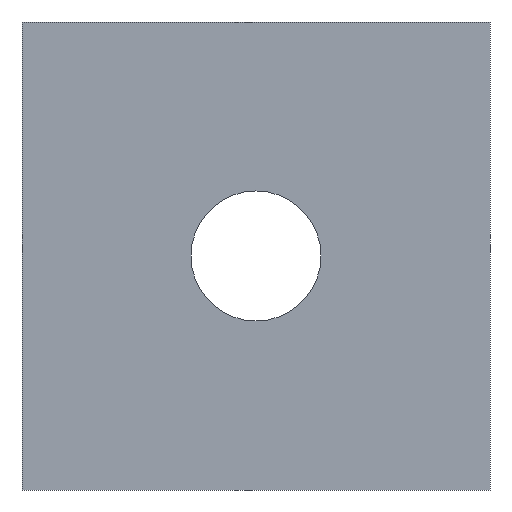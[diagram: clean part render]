
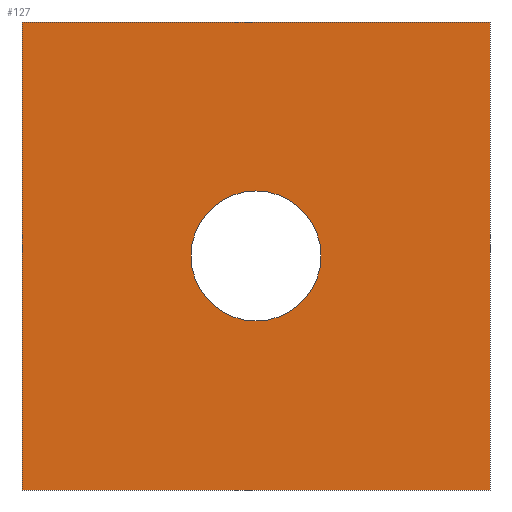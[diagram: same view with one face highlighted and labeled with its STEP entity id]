
A CAD part, front view. The second image highlights one B-rep face of the part: STEP entity #127.
In plain terms, the highlighted planar face has unit normal (0, -1, 0).
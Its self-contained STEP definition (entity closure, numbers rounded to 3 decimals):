
#16=FACE_BOUND('',#36,.T.);
#20=PLANE('',#156);
#27=FACE_OUTER_BOUND('',#35,.T.);
#35=EDGE_LOOP('',(#109,#110,#111,#112));
#36=EDGE_LOOP('',(#113));
#43=LINE('',#207,#56);
#48=LINE('',#218,#61);
#50=LINE('',#221,#63);
#51=LINE('',#222,#64);
#56=VECTOR('',#173,1000.);
#61=VECTOR('',#182,1000.);
#63=VECTOR('',#186,1000.);
#64=VECTOR('',#187,1000.);
#65=CIRCLE('',#151,2.5);
#67=VERTEX_POINT('',#194);
#69=VERTEX_POINT('',#200);
#72=VERTEX_POINT('',#205);
#75=VERTEX_POINT('',#215);
#76=VERTEX_POINT('',#217);
#77=EDGE_CURVE('',#67,#67,#65,.T.);
#83=EDGE_CURVE('',#72,#69,#43,.T.);
#88=EDGE_CURVE('',#76,#75,#48,.T.);
#90=EDGE_CURVE('',#75,#69,#50,.T.);
#91=EDGE_CURVE('',#76,#72,#51,.T.);
#109=ORIENTED_EDGE('',*,*,#90,.T.);
#110=ORIENTED_EDGE('',*,*,#83,.F.);
#111=ORIENTED_EDGE('',*,*,#91,.F.);
#112=ORIENTED_EDGE('',*,*,#88,.T.);
#113=ORIENTED_EDGE('',*,*,#77,.T.);
#127=ADVANCED_FACE('',(#27,#16),#20,.F.);
#151=AXIS2_PLACEMENT_3D('',#195,#163,#164);
#156=AXIS2_PLACEMENT_3D('',#220,#184,#185);
#163=DIRECTION('center_axis',(0.,1.,0.));
#164=DIRECTION('ref_axis',(0.,0.,1.));
#173=DIRECTION('',(1.,0.,0.));
#182=DIRECTION('',(1.,0.,0.));
#184=DIRECTION('center_axis',(0.,1.,0.));
#185=DIRECTION('ref_axis',(0.,0.,1.));
#186=DIRECTION('',(0.,0.,1.));
#187=DIRECTION('',(0.,0.,1.));
#194=CARTESIAN_POINT('',(-9.,-858.048,-2391.812));
#195=CARTESIAN_POINT('Origin',(-9.,-858.048,-2389.312));
#200=CARTESIAN_POINT('',(0.,-858.048,-2380.312));
#205=CARTESIAN_POINT('',(-18.,-858.048,-2380.312));
#207=CARTESIAN_POINT('',(-18.,-858.048,-2380.312));
#215=CARTESIAN_POINT('',(0.,-858.048,-2398.312));
#217=CARTESIAN_POINT('',(-18.,-858.048,-2398.312));
#218=CARTESIAN_POINT('',(-18.,-858.048,-2398.312));
#220=CARTESIAN_POINT('Origin',(-18.,-858.048,-2380.312));
#221=CARTESIAN_POINT('',(0.,-858.048,-2380.312));
#222=CARTESIAN_POINT('',(-18.,-858.048,-2380.312));
